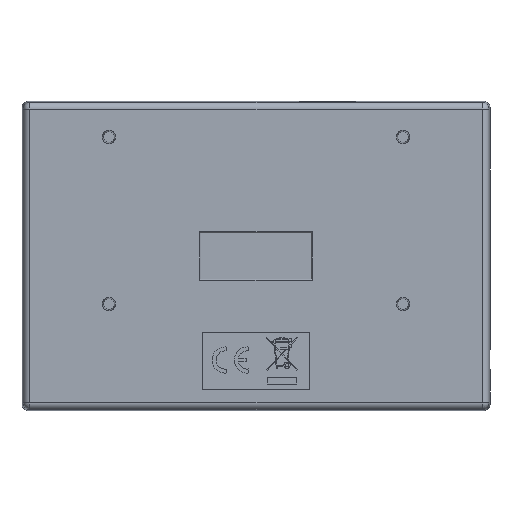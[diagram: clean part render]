
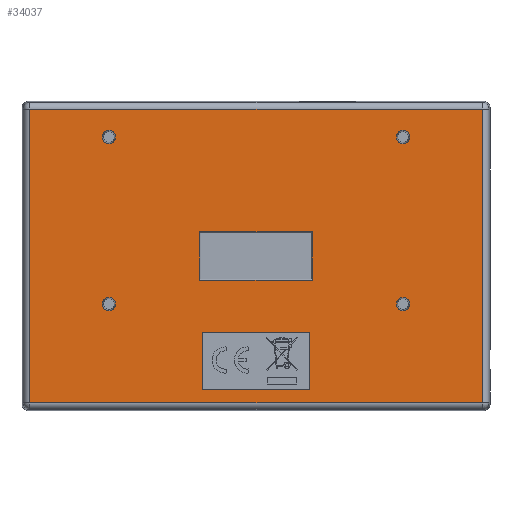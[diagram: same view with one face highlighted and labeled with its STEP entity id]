
A CAD part, front view. The second image highlights one B-rep face of the part: STEP entity #34037.
In plain terms, the highlighted planar face has unit normal (0, -1, 0) as drawn and (0, 0, -1) by its records, which use the part's own axes.
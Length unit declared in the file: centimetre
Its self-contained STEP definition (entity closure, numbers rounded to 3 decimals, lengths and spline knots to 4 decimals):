
#11247=CIRCLE('',#35356,0.1249);
#11248=CIRCLE('',#35357,0.1249);
#11249=CIRCLE('',#35358,0.1249);
#11250=CIRCLE('',#35359,0.1249);
#12040=VERTEX_POINT('',#43312);
#12041=VERTEX_POINT('',#43314);
#12043=VERTEX_POINT('',#43320);
#12045=VERTEX_POINT('',#43326);
#12179=VERTEX_POINT('',#43758);
#12180=VERTEX_POINT('',#43760);
#12182=VERTEX_POINT('',#43766);
#12184=VERTEX_POINT('',#43772);
#12305=VERTEX_POINT('',#44844);
#12306=VERTEX_POINT('',#44846);
#12307=VERTEX_POINT('',#44848);
#12308=VERTEX_POINT('',#44850);
#12309=VERTEX_POINT('',#44852);
#12310=VERTEX_POINT('',#44853);
#12311=VERTEX_POINT('',#44855);
#12312=VERTEX_POINT('',#44857);
#14378=VECTOR('',#37301,1.);
#14381=VECTOR('',#37305,1.);
#14384=VECTOR('',#37309,1.);
#14387=VECTOR('',#37313,1.);
#14556=VECTOR('',#37556,1.);
#14559=VECTOR('',#37560,1.);
#14562=VECTOR('',#37564,1.);
#14565=VECTOR('',#37568,1.);
#14726=VECTOR('',#37801,1.);
#14727=VECTOR('',#37802,1.);
#14728=VECTOR('',#37803,1.);
#14729=VECTOR('',#37804,1.);
#17278=LINE('',#43313,#14378);
#17281=LINE('',#43319,#14381);
#17284=LINE('',#43325,#14384);
#17287=LINE('',#43330,#14387);
#17456=LINE('',#43759,#14556);
#17459=LINE('',#43765,#14559);
#17462=LINE('',#43771,#14562);
#17465=LINE('',#43776,#14565);
#17626=LINE('',#44851,#14726);
#17627=LINE('',#44854,#14727);
#17628=LINE('',#44856,#14728);
#17629=LINE('',#44858,#14729);
#20195=EDGE_CURVE('',#12041,#12040,#17278,.T.);
#20198=EDGE_CURVE('',#12043,#12041,#17281,.T.);
#20201=EDGE_CURVE('',#12045,#12043,#17284,.T.);
#20204=EDGE_CURVE('',#12040,#12045,#17287,.T.);
#20392=EDGE_CURVE('',#12180,#12179,#17456,.F.);
#20395=EDGE_CURVE('',#12182,#12180,#17459,.F.);
#20398=EDGE_CURVE('',#12184,#12182,#17462,.F.);
#20401=EDGE_CURVE('',#12179,#12184,#17465,.F.);
#20582=EDGE_CURVE('',#12305,#12305,#11247,.F.);
#20583=EDGE_CURVE('',#12306,#12306,#11248,.F.);
#20584=EDGE_CURVE('',#12307,#12307,#11249,.F.);
#20585=EDGE_CURVE('',#12308,#12308,#11250,.F.);
#20586=EDGE_CURVE('',#12309,#12310,#17626,.T.);
#20587=EDGE_CURVE('',#12311,#12309,#17627,.T.);
#20588=EDGE_CURVE('',#12312,#12311,#17628,.T.);
#20589=EDGE_CURVE('',#12310,#12312,#17629,.T.);
#24552=ORIENTED_EDGE('',*,*,#20195,.T.);
#24553=ORIENTED_EDGE('',*,*,#20204,.T.);
#24554=ORIENTED_EDGE('',*,*,#20201,.T.);
#24555=ORIENTED_EDGE('',*,*,#20198,.T.);
#24556=ORIENTED_EDGE('',*,*,#20582,.T.);
#24557=ORIENTED_EDGE('',*,*,#20583,.T.);
#24558=ORIENTED_EDGE('',*,*,#20584,.T.);
#24559=ORIENTED_EDGE('',*,*,#20585,.T.);
#24560=ORIENTED_EDGE('',*,*,#20586,.F.);
#24561=ORIENTED_EDGE('',*,*,#20587,.F.);
#24562=ORIENTED_EDGE('',*,*,#20588,.F.);
#24563=ORIENTED_EDGE('',*,*,#20589,.F.);
#24564=ORIENTED_EDGE('',*,*,#20392,.T.);
#24565=ORIENTED_EDGE('',*,*,#20401,.T.);
#24566=ORIENTED_EDGE('',*,*,#20398,.T.);
#24567=ORIENTED_EDGE('',*,*,#20395,.T.);
#31007=EDGE_LOOP('',(#24552,#24553,#24554,#24555));
#31008=EDGE_LOOP('',(#24556));
#31009=EDGE_LOOP('',(#24557));
#31010=EDGE_LOOP('',(#24558));
#31011=EDGE_LOOP('',(#24559));
#31012=EDGE_LOOP('',(#24560,#24561,#24562,#24563));
#31013=EDGE_LOOP('',(#24564,#24565,#24566,#24567));
#32530=FACE_BOUND('',#31007,.T.);
#32531=FACE_BOUND('',#31008,.T.);
#32532=FACE_BOUND('',#31009,.T.);
#32533=FACE_BOUND('',#31010,.T.);
#32534=FACE_BOUND('',#31011,.T.);
#32535=FACE_BOUND('',#31012,.T.);
#32536=FACE_BOUND('',#31013,.T.);
#34037=ADVANCED_FACE('',(#32530,#32531,#32532,#32533,#32534,#32535,#32536),
#52967,.F.);
#35355=AXIS2_PLACEMENT_3D('',#44842,#37792,$);
#35356=AXIS2_PLACEMENT_3D('',#44843,#37793,#37794);
#35357=AXIS2_PLACEMENT_3D('',#44845,#37795,#37796);
#35358=AXIS2_PLACEMENT_3D('',#44847,#37797,#37798);
#35359=AXIS2_PLACEMENT_3D('',#44849,#37799,#37800);
#37301=DIRECTION('',(1.,0.,0.));
#37305=DIRECTION('',(0.,-1.,0.));
#37309=DIRECTION('',(-1.,0.,0.));
#37313=DIRECTION('',(0.,1.,0.));
#37556=DIRECTION('',(-1.,0.,0.));
#37560=DIRECTION('',(0.,1.,0.));
#37564=DIRECTION('',(1.,0.,0.));
#37568=DIRECTION('',(0.,-1.,0.));
#37792=DIRECTION('',(0.,0.,1.));
#37793=DIRECTION('',(0.,0.,-1.));
#37794=DIRECTION('',(-0.125,0.,0.));
#37795=DIRECTION('',(0.,0.,-1.));
#37796=DIRECTION('',(-0.125,0.,0.));
#37797=DIRECTION('',(0.,0.,-1.));
#37798=DIRECTION('',(-0.125,0.,0.));
#37799=DIRECTION('',(0.,0.,-1.));
#37800=DIRECTION('',(-0.125,0.,0.));
#37801=DIRECTION('',(-1.,0.,0.));
#37802=DIRECTION('',(0.,1.,0.));
#37803=DIRECTION('',(1.,0.,0.));
#37804=DIRECTION('',(0.,-1.,0.));
#43312=CARTESIAN_POINT('',(1.0668,-0.4572,-0.0032));
#43313=CARTESIAN_POINT('',(0.5334,-0.4572,-0.0032));
#43314=CARTESIAN_POINT('',(-1.0668,-0.4572,-0.0032));
#43319=CARTESIAN_POINT('',(-1.0668,-0.2286,-0.0032));
#43320=CARTESIAN_POINT('',(-1.0668,0.4572,-0.0032));
#43325=CARTESIAN_POINT('',(-0.5334,0.4572,-0.0032));
#43326=CARTESIAN_POINT('',(1.0668,0.4572,-0.0032));
#43330=CARTESIAN_POINT('',(1.0668,0.2286,-0.0032));
#43758=CARTESIAN_POINT('',(1.0174,-2.5386,-0.0032));
#43759=CARTESIAN_POINT('',(0.,-2.5386,-0.0032));
#43760=CARTESIAN_POINT('',(-1.0174,-2.5386,-0.0032));
#43765=CARTESIAN_POINT('',(-1.0174,-0.4994,-0.0032));
#43766=CARTESIAN_POINT('',(-1.0174,-1.4563,-0.0032));
#43771=CARTESIAN_POINT('',(0.,-1.4563,-0.0032));
#43772=CARTESIAN_POINT('',(1.0174,-1.4563,-0.0032));
#43776=CARTESIAN_POINT('',(1.0174,-0.4994,-0.0032));
#44842=CARTESIAN_POINT('',(0.,0.,-0.0032));
#44843=CARTESIAN_POINT('',(2.794,2.2606,-0.0032));
#44844=CARTESIAN_POINT('',(2.9189,2.2606,-0.0032));
#44845=CARTESIAN_POINT('',(2.794,-0.9144,-0.0032));
#44846=CARTESIAN_POINT('',(2.9189,-0.9144,-0.0032));
#44847=CARTESIAN_POINT('',(-2.794,-0.9144,-0.0032));
#44848=CARTESIAN_POINT('',(-2.6691,-0.9144,-0.0032));
#44849=CARTESIAN_POINT('',(-2.794,2.2606,-0.0032));
#44850=CARTESIAN_POINT('',(-2.6691,2.2606,-0.0032));
#44851=CARTESIAN_POINT('',(0.,2.7912,-0.0032));
#44852=CARTESIAN_POINT('',(4.2961,2.7912,-0.0032));
#44853=CARTESIAN_POINT('',(-4.2961,2.7912,-0.0032));
#44854=CARTESIAN_POINT('',(4.2961,0.,-0.0032));
#44855=CARTESIAN_POINT('',(4.2961,-2.7912,-0.0032));
#44856=CARTESIAN_POINT('',(0.,-2.7912,-0.0032));
#44857=CARTESIAN_POINT('',(-4.2961,-2.7912,-0.0032));
#44858=CARTESIAN_POINT('',(-4.2961,0.,-0.0032));
#52967=PLANE('',#35355);
